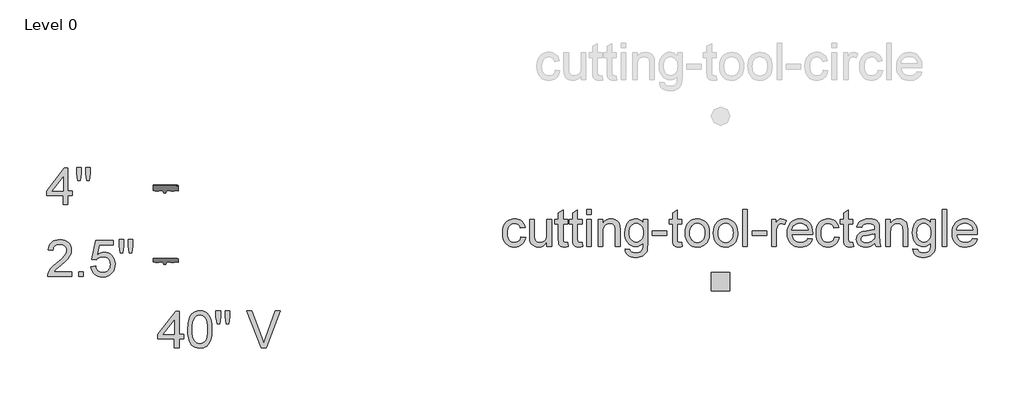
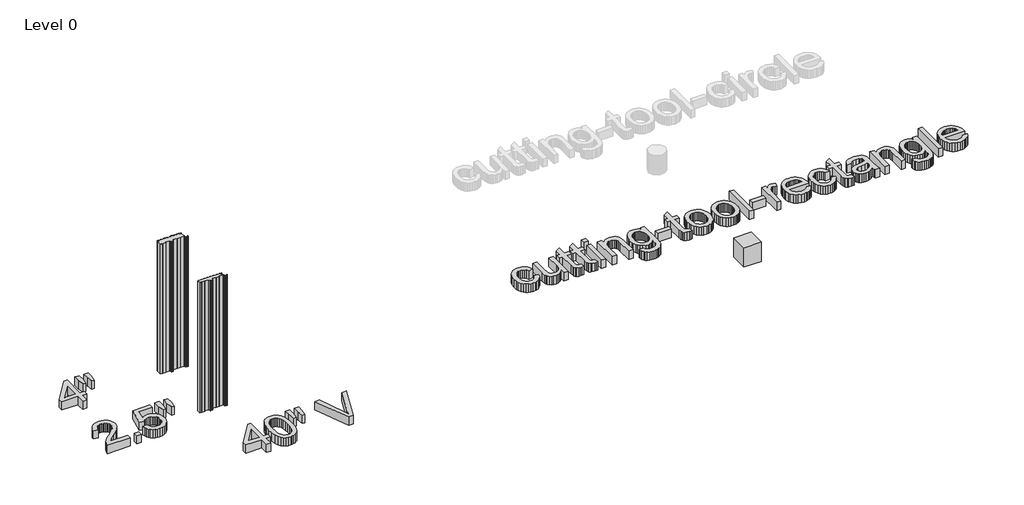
# One storey, part 1 of 2: 5 proxies, 2 plates.
"""IFC4 building model written with IfcOpenShell, lengths in millimetres."""

from ifc_helpers import new_model, si_unit, origin, origin_with_axes, place, context, project, spatial, polyline, outline, extrude, transform, mapped, element, save
from components import kingspan_ks_cutting_tool_rectangle_cutting_tool_rectangle_f435e5aa, vt_2_5_inch_2b169fff, vt_4_inch_4c3a3e69

model = new_model("IFC4")

# Units and contexts
model_context = context("Model", 3, world=origin())
ifc_project = project(units=[si_unit("LENGTHUNIT", "METRE", prefix="MILLI")], contexts=[model_context])

# Site, building, storey
site = spatial("IfcSite", under=ifc_project)
building = spatial("IfcBuilding", under=site)
storey = spatial("IfcBuildingStorey", under=building, Name="Level 0", Elevation=0.0)

# Proxies
placement = place(None, origin())
element("IfcBuildingElementProxy", 1, Name="24\" Arial", ObjectType="24\" Arial", at=placement, inside=storey, context=model_context, shape_type="SweptSolid", body=[
    extrude(outline(polyline([(-8047.2310472, 10661.1522744), (-8047.2310472, 10585.0105009), (-8446.9753582, 10585.0105009), (-8445.3023211, 10611.8162718), (-8438.7960661, 10637.5066846), (-8420.0208729, 10678.5332701), (-8392.5458873, 10718.3329618), (-8352.8019635, 10759.9915835), (-8297.219956, 10806.594959), (-8215.0552492, 10879.5765515), (-8165.7564251, 10933.4483434), (-8151.3776014, 10955.4580748), (-8141.1070131, 10977.1703774), (-8134.9446601, 10998.5852512), (-8132.8905424, 11019.7026962), (-8134.8284769, 11039.5700108), (-8140.6422806, 11057.8293509), (-8150.3319533, 11074.4807165), (-8163.8974951, 11089.5241077), (-8180.5860393, 11101.9835861), (-8199.6447193, 11110.8832136), (-8221.0735351, 11116.2229901), (-8244.8724867, 11118.0029155), (-8269.9448053, 11116.264816), (-8292.3681486, 11111.0505173), (-8312.1425167, 11102.3600194), (-8329.2679095, 11090.1933225), (-8343.1215854, 11074.959391), (-8353.080803, 11057.0671896), (-8359.1455622, 11036.5167182), (-8361.315863, 11013.307977), (-8437.4576365, 11022.8256986), (-8430.9095555, 11062.1327739), (-8418.9984614, 11096.4765059), (-8401.7243542, 11125.8568949), (-8379.0872339, 11150.2739406), (-8351.6076009, 11169.4673931), (-8319.8059557, 11183.177002), (-8283.6822981, 11191.4027673), (-8243.2366282, 11194.1446891), (-8202.428467, 11191.0960438), (-8166.1096218, 11181.9501081), (-8134.2800926, 11166.706882), (-8106.9398794, 11145.3663654), (-8084.9812685, 11119.5086489), (-8069.2965465, 11090.7138229), (-8059.8857133, 11058.9818875), (-8056.7487689, 11024.3128427), (-8060.1320215, 10987.8964036), (-8070.2817794, 10952.1120008), (-8088.2948113, 10915.714151), (-8115.2678858, 10877.4573713), (-8158.2649371, 10831.7834608), (-8224.3498993, 10773.1342187), (-8311.9426817, 10699.892376), (-8346.2957084, 10661.1522744), (-8047.2310472, 10661.1522744)])), origin_with_axes(), (0.0, 0.0, 1.0), 152.4),
    extrude(outline(polyline([(-7933.0183869, 10585.0105009), (-7933.0183869, 10661.1522744), (-7856.8766134, 10661.1522744), (-7856.8766134, 10585.0105009), (-7933.0183869, 10585.0105009)])), origin_with_axes(), (0.0, 0.0, 1.0), 152.4),
    extrude(outline(polyline([(-7733.1462314, 10746.8117696), (-7657.0044579, 10756.3294913), (-7651.3161321, 10731.8520303), (-7643.0253042, 10710.6184022), (-7632.1319743, 10692.628607), (-7618.6361424, 10677.8826446), (-7602.5656924, 10666.3991044), (-7583.9485082, 10658.1965757), (-7562.78459, 10653.2750585), (-7539.0739376, 10651.6345528), (-7510.0746293, 10653.9163893), (-7484.4957523, 10660.7618991), (-7462.3373065, 10672.1710821), (-7443.5992919, 10688.1439383), (-7428.6999678, 10707.8904224), (-7418.0575935, 10730.6204892), (-7411.6721689, 10756.3341387), (-7409.543694, 10785.0313708), (-7411.5373964, 10812.1531598), (-7417.5185038, 10836.2634821), (-7427.487016, 10857.3623378), (-7441.4429331, 10875.4497269), (-7459.4327283, 10889.9586756), (-7481.502875, 10900.3222105), (-7507.653373, 10906.5403314), (-7537.8842224, 10908.6130384), (-7574.8211618, 10905.3041429), (-7604.7313458, 10895.3774566), (-7628.6185966, 10880.1714091), (-7647.4867362, 10861.0244299), (-7723.6285098, 10870.5421516), (-7657.0044579, 11184.6269674), (-7361.9550855, 11184.6269674), (-7361.9550855, 11108.4851939), (-7595.4366957, 11108.4851939), (-7628.0051497, 10940.7353491), (-7601.1343162, 10959.9938641), (-7573.6128573, 10973.7499462), (-7545.4407729, 10982.0035955), (-7516.618063, 10984.7548119), (-7479.5370565, 10981.3436753), (-7445.4768112, 10971.1102656), (-7414.4373273, 10954.0545827), (-7386.4186046, 10930.1766266), (-7363.2238053, 10900.9356574), (-7346.6560915, 10867.7909352), (-7336.7154632, 10830.7424599), (-7333.4019205, 10789.7902317), (-7336.3855032, 10750.3437367), (-7345.3362512, 10713.6484581), (-7360.2541646, 10679.704396), (-7381.1392433, 10648.5115503), (-7412.7782322, 10616.565838), (-7449.6965824, 10593.747472), (-7491.8942938, 10580.0564524), (-7539.3713664, 10575.4927792), (-7578.6644997, 10578.4252413), (-7614.156121, 10587.2226276), (-7645.8462305, 10601.8849382), (-7673.7348281, 10622.4121729), (-7696.938922, 10647.7819203), (-7714.5755206, 10676.9717689), (-7726.6446237, 10709.9817187), (-7733.1462314, 10746.8117696)])), origin_with_axes(), (0.0, 0.0, 1.0), 152.4),
    extrude(outline(polyline([(-7248.1885685, 10975.2370902), (-7266.7778686, 11092.8701817), (-7266.7778686, 11194.1446891), (-7190.6360951, 11194.1446891), (-7190.6360951, 11092.8701817), (-7207.2921081, 10975.2370902), (-7248.1885685, 10975.2370902)])), origin_with_axes(), (0.0, 0.0, 1.0), 152.4),
    extrude(outline(polyline([(-7096.3511646, 10975.2370902), (-7114.4943216, 11092.8701817), (-7114.4943216, 11194.1446891), (-7038.3525481, 11194.1446891), (-7038.3525481, 11092.8701817), (-7056.1982763, 10975.2370902), (-7096.3511646, 10975.2370902)])), origin_with_axes(), (0.0, 0.0, 1.0), 152.4),
])
element("IfcBuildingElementProxy", 2, Name="24\" Arial", ObjectType="24\" Arial", at=placement, inside=storey, context=model_context, shape_type="SweptSolid", body=[
    extrude(outline(polyline([(-8189.9968725, 11778.8105009), (-8189.9968725, 11921.5763263), (-8466.0108015, 11921.5763263), (-8466.0108015, 11997.7180998), (-8170.9614292, 12378.4269674), (-8113.855099, 12378.4269674), (-8113.855099, 11997.7180998), (-8037.7133255, 11997.7180998), (-8037.7133255, 11921.5763263), (-8113.855099, 11921.5763263), (-8113.855099, 11778.8105009), (-8189.9968725, 11778.8105009)]), holes=[polyline([(-8189.9968725, 11997.7180998), (-8189.9968725, 12232.9842828), (-8372.3207287, 11997.7180998), (-8189.9968725, 11997.7180998)])]), origin_with_axes(), (0.0, 0.0, 1.0), 152.4),
    extrude(outline(polyline([(-7952.4999735, 12169.0370902), (-7971.0892737, 12286.6701817), (-7971.0892737, 12387.9446891), (-7894.9475002, 12387.9446891), (-7894.9475002, 12286.6701817), (-7911.6035131, 12169.0370902), (-7952.4999735, 12169.0370902)])), origin_with_axes(), (0.0, 0.0, 1.0), 152.4),
    extrude(outline(polyline([(-7800.6625697, 12169.0370902), (-7818.8057266, 12286.6701817), (-7818.8057266, 12387.9446891), (-7742.6639531, 12387.9446891), (-7742.6639531, 12286.6701817), (-7760.5096813, 12169.0370902), (-7800.6625697, 12169.0370902)])), origin_with_axes(), (0.0, 0.0, 1.0), 152.4),
])
element("IfcBuildingElementProxy", 3, Name="24\" Arial", ObjectType="24\" Arial", at=placement, inside=storey, context=model_context, shape_type="SweptSolid", body=[
    extrude(outline(polyline([(-6353.1934429, 9409.440542), (-6353.1934429, 9552.2063674), (-6629.2073719, 9552.2063674), (-6629.2073719, 9628.3481409), (-6334.1579995, 10009.0570085), (-6277.0516693, 10009.0570085), (-6277.0516693, 9628.3481409), (-6200.9098958, 9628.3481409), (-6200.9098958, 9552.2063674), (-6277.0516693, 9552.2063674), (-6277.0516693, 9409.440542), (-6353.1934429, 9409.440542)]), holes=[polyline([(-6353.1934429, 9628.3481409), (-6353.1934429, 9863.6143239), (-6535.517299, 9628.3481409), (-6353.1934429, 9628.3481409)])]), origin_with_axes(), (0.0, 0.0, 1.0), 152.4),
    extrude(outline(polyline([(-6134.285844, 9709.1000608), (-6128.6904646, 9806.6009403), (-6121.6962405, 9847.9481912), (-6111.9043266, 9884.3599829), (-6099.356549, 9916.1337442), (-6084.0947335, 9943.5669039), (-6066.1188803, 9966.6594621), (-6045.4289892, 9985.4114186), (-6021.9553504, 9999.9203674), (-5995.628254, 10010.2839023), (-5966.4477, 10016.5020232), (-5934.4136885, 10018.5747302), (-5887.4942949, 10013.6671549), (-5845.4824765, 9998.9444292), (-5810.3486991, 9974.9828212), (-5784.0634287, 9942.3585994), (-5764.2100561, 9901.3506033), (-5748.3719724, 9852.2376722), (-5737.9991429, 9789.8705701), (-5734.541533, 9709.1000608), (-5740.0811445, 9612.1568604), (-5747.0056588, 9570.9490293), (-5756.6999788, 9534.5837108), (-5769.1501626, 9502.7960075), (-5784.3422682, 9475.3210218), (-5802.2762955, 9452.1587538), (-5822.9522447, 9433.3092034), (-5846.4537674, 9418.7026608), (-5872.8645156, 9408.2694161), (-5902.1844893, 9402.0094693), (-5934.4136885, 9399.9228203), (-5976.3511497, 9403.5477339), (-6013.5297501, 9414.4224745), (-6045.9494896, 9432.5470421), (-6073.6103682, 9457.9214369), (-6100.1558889, 9503.7905351), (-6119.1169751, 9560.9433384), (-6130.4936268, 9629.379847), (-6134.285844, 9709.1000608)]), holes=[polyline([(-6058.1440705, 9709.2487752), (-6055.9133545, 9643.0569246), (-6049.2212064, 9589.4779142), (-6038.0676263, 9548.511744), (-6022.4526141, 9520.1584139), (-6003.5658852, 9500.8673676), (-5982.5971546, 9487.0880488), (-5959.5464224, 9478.8204576), (-5934.4136885, 9476.0645938), (-5909.2809547, 9478.8297522), (-5886.2302225, 9487.1252274), (-5865.2614919, 9500.9510195), (-5846.3747629, 9520.3071283), (-5830.7597507, 9548.7069316), (-5819.6061706, 9589.6638072), (-5812.9140226, 9643.1777551), (-5810.6833065, 9709.2487752), (-5812.8396654, 9773.6885843), (-5819.3087418, 9826.3241877), (-5830.0905359, 9867.1555856), (-5845.1850477, 9896.1827778), (-5863.7557585, 9916.417231), (-5884.96615, 9930.8704119), (-5908.8162222, 9939.5423205), (-5935.3059749, 9942.4329566), (-5960.3085837, 9939.8862225), (-5982.9689406, 9932.2460201), (-6003.2870457, 9919.5123495), (-6021.2628989, 9901.6852107), (-6037.3984115, 9870.0834004), (-6048.9237776, 9827.4767244), (-6055.8389973, 9773.8651827), (-6058.1440705, 9709.2487752)])]), origin_with_axes(), (0.0, 0.0, 1.0), 152.4),
    extrude(outline(polyline([(-5649.328181, 9799.6671313), (-5667.9174812, 9917.3002228), (-5667.9174812, 10018.5747302), (-5591.7757077, 10018.5747302), (-5591.7757077, 9917.3002228), (-5608.4317206, 9799.6671313), (-5649.328181, 9799.6671313)])), origin_with_axes(), (0.0, 0.0, 1.0), 152.4),
    extrude(outline(polyline([(-5497.4907772, 9799.6671313), (-5515.6339342, 9917.3002228), (-5515.6339342, 10018.5747302), (-5439.4921607, 10018.5747302), (-5439.4921607, 9917.3002228), (-5457.3378888, 9799.6671313), (-5497.4907772, 9799.6671313)])), origin_with_axes(), (0.0, 0.0, 1.0), 152.4),
    extrude(outline(polyline([(-4916.9097541, 9409.440542), (-5159.3142284, 10018.5747302), (-5077.8187364, 10018.5747302), (-4915.5713245, 9579.7185316), (-4882.7054418, 9480.8234547), (-4850.2857023, 9579.7185316), (-4687.5921472, 10018.5747302), (-4606.0966552, 10018.5747302), (-4838.2398358, 9409.440542), (-4916.9097541, 9409.440542)])), origin_with_axes(), (0.0, 0.0, 1.0), 152.4),
])
element("IfcBuildingElementProxy", 4, Name="24\" Arial", ObjectType="24\" Arial", at=placement, inside=storey, context=model_context, shape_type="SweptSolid", body=[
    extrude(outline(polyline([(-631.5569332, 11242.2118984), (-555.4151597, 11232.6941767), (-563.6966929, 11196.7657068), (-576.6441405, 11164.9733562), (-594.2575024, 11137.3171249), (-616.5367787, 11113.7970128), (-642.5432096, 11095.026467), (-671.3380356, 11081.6189342), (-702.9212566, 11073.5744146), (-737.2928726, 11070.892908), (-779.9971424, 11074.6340047), (-818.2864535, 11085.8572946), (-852.1608057, 11104.5627779), (-881.6201991, 11130.7504546), (-905.4656239, 11163.9277081), (-922.4980702, 11203.601922), (-932.717538, 11249.7730963), (-936.1240273, 11302.441231), (-930.3055763, 11370.1992301), (-923.0325126, 11400.6903297), (-912.8502234, 11428.9228294), (-899.6889989, 11454.3297554), (-883.4791292, 11476.3441341), (-864.2206142, 11494.9659656), (-841.913454, 11510.1952497), (-817.5661181, 11522.036634), (-792.187076, 11530.4947655), (-765.7763278, 11535.5696445), (-738.3338734, 11537.2612708), (-704.5524677, 11534.9376083), (-673.9963055, 11527.9666207), (-646.6653869, 11516.3483081), (-622.5597119, 11500.0826704), (-602.0882451, 11479.5414938), (-585.6599511, 11455.096564), (-573.2748298, 11426.7478813), (-564.9328814, 11394.4954455), (-641.0746549, 11384.9777238), (-654.8865049, 11418.1968032), (-676.3943252, 11442.0096967), (-704.4084006, 11456.3420471), (-737.7390158, 11461.1194973), (-763.6106743, 11458.7679508), (-786.9448934, 11451.7133114), (-807.7416729, 11439.955579), (-826.001013, 11423.4947537), (-840.8678058, 11401.9497548), (-851.4869436, 11374.9395017), (-857.8584262, 11342.4639943), (-859.9822537, 11304.5232326), (-857.9048994, 11266.01085), (-851.6728366, 11233.1589092), (-841.2860651, 11205.9674104), (-826.744585, 11184.4363535), (-808.8477363, 11168.073122), (-788.3948588, 11156.3850995), (-765.3859525, 11149.372286), (-739.8210174, 11147.0346815), (-700.3931117, 11152.8717218), (-683.3420762, 11160.1680221), (-668.0663187, 11170.3828425), (-654.9933934, 11183.6277189), (-644.550854, 11200.014187), (-636.7387006, 11219.5422469), (-631.5569332, 11242.2118984)])), origin_with_axes(), (0.0, 0.0, 1.0), 152.4),
    extrude(outline(polyline([(-203.2594572, 11080.4106297), (-203.2594572, 11157.2959752), (-230.8088, 11119.4946333), (-262.8939321, 11092.4936748), (-299.5148535, 11076.2930997), (-340.6715641, 11070.892908), (-377.7572179, 11074.6851252), (-412.2775483, 11086.0617769), (-441.239678, 11103.1639331), (-461.6507296, 11124.1326637), (-475.3882224, 11149.6000049), (-484.3296758, 11180.197993), (-488.7911078, 11250.9860481), (-488.7911078, 11527.7435491), (-412.6493343, 11527.7435491), (-412.6493343, 11286.8262188), (-411.4967977, 11238.6427528), (-408.0391879, 11209.1973013), (-396.9413757, 11183.3024062), (-377.9245216, 11163.6163373), (-352.2526981, 11151.1800955), (-321.1899775, 11147.0346815), (-288.3426841, 11151.273042), (-257.6145709, 11163.9881233), (-232.2773547, 11184.0087996), (-215.6027525, 11210.1639449), (-206.345281, 11245.9855264), (-203.2594572, 11295.0055109), (-203.2594572, 11527.7435491), (-127.1176836, 11527.7435491), (-127.1176836, 11080.4106297), (-203.2594572, 11080.4106297)])), origin_with_axes(), (0.0, 0.0, 1.0), 152.4),
    extrude(outline(polyline([(139.3785237, 11143.9116791), (148.8962454, 11078.1799137), (118.7444005, 11072.7146594), (91.9386296, 11070.892908), (55.3920655, 11074.053089), (28.1401514, 11083.5336321), (8.8816364, 11098.1448221), (-3.6847305, 11116.6969436), (-10.5999501, 11148.5590041), (-12.9050234, 11203.1000108), (-12.9050234, 11451.6017756), (-70.0113535, 11451.6017756), (-70.0113535, 11527.7435491), (-12.9050234, 11527.7435491), (-12.9050234, 11636.4537765), (63.2367502, 11681.2168114), (63.2367502, 11527.7435491), (139.3785237, 11527.7435491), (139.3785237, 11451.6017756), (63.2367502, 11451.6017756), (63.2367502, 11205.3307269), (67.252039, 11166.0701249), (80.2645491, 11152.1653284), (91.2508255, 11148.3173432), (106.2152122, 11147.0346815), (139.3785237, 11143.9116791)])), origin_with_axes(), (0.0, 0.0, 1.0), 152.4),
    extrude(outline(polyline([(377.3215659, 11143.9116791), (386.8392876, 11078.1799137), (356.6874427, 11072.7146594), (329.8816719, 11070.892908), (293.3351077, 11074.053089), (266.0831937, 11083.5336321), (246.8246787, 11098.1448221), (234.2583118, 11116.6969436), (227.3430921, 11148.5590041), (225.0380189, 11203.1000108), (225.0380189, 11451.6017756), (167.9316887, 11451.6017756), (167.9316887, 11527.7435491), (225.0380189, 11527.7435491), (225.0380189, 11636.4537765), (301.1797924, 11681.2168114), (301.1797924, 11527.7435491), (377.3215659, 11527.7435491), (377.3215659, 11451.6017756), (301.1797924, 11451.6017756), (301.1797924, 11205.3307269), (305.1950812, 11166.0701249), (318.2075914, 11152.1653284), (329.1938678, 11148.3173432), (344.1582544, 11147.0346815), (377.3215659, 11143.9116791)])), origin_with_axes(), (0.0, 0.0, 1.0), 152.4),
    extrude(outline(polyline([(453.4633394, 11613.4030443), (453.4633394, 11689.5448178), (529.6051129, 11689.5448178), (529.6051129, 11613.4030443), (453.4633394, 11613.4030443)])), origin_with_axes(), (0.0, 0.0, 1.0), 152.4),
    extrude(outline(polyline([(453.4633394, 11080.4106297), (453.4633394, 11527.7435491), (529.6051129, 11527.7435491), (529.6051129, 11080.4106297), (453.4633394, 11080.4106297)])), origin_with_axes(), (0.0, 0.0, 1.0), 152.4),
    extrude(outline(polyline([(643.8177732, 11080.4106297), (643.8177732, 11527.7435491), (719.9595467, 11527.7435491), (719.9595467, 11465.2835005), (746.4121209, 11496.773775), (778.1812349, 11519.2668282), (815.2668887, 11532.7626602), (857.6690824, 11537.2612708), (895.2008795, 11533.6363573), (929.5724955, 11522.7616167), (958.2371964, 11505.9940679), (978.648248, 11484.6907299), (992.4972766, 11458.9073706), (1001.4759086, 11428.6997578), (1005.4911974, 11355.0861291), (1005.4911974, 11080.4106297), (929.3494239, 11080.4106297), (929.3494239, 11344.8248354), (927.1558865, 11384.1969732), (920.5752742, 11412.1924592), (908.4364612, 11432.2503141), (889.5683215, 11447.8095584), (865.383642, 11457.7920125), (837.2952094, 11461.1194973), (814.1747673, 11459.2512726), (792.6994783, 11453.6465986), (772.8693424, 11444.3054753), (754.6843595, 11431.2279026), (739.4922539, 11412.9267366), (728.6407499, 11387.9148332), (722.1298475, 11356.1921924), (719.9595467, 11317.7588143), (719.9595467, 11080.4106297), (643.8177732, 11080.4106297)])), origin_with_axes(), (0.0, 0.0, 1.0), 152.4),
    extrude(outline(polyline([(1091.1506926, 11042.3397429), (1167.2924661, 11032.8220212), (1175.6948298, 11009.027717), (1191.9790568, 10992.6691329), (1223.9898317, 10979.9540515), (1265.8901143, 10975.7156911), (1310.5787919, 10980.5117306), (1328.6290024, 10986.5067799), (1343.8164606, 10994.8998489), (1366.8671928, 11017.9505811), (1380.995061, 11048.7344622), (1385.1218856, 11081.4888091), (1386.200065, 11137.5169598), (1360.8628489, 11112.5329404), (1332.5885233, 11094.6872122), (1301.3770883, 11083.9797753), (1267.2285439, 11080.4106297), (1225.481623, 11084.5653383), (1188.7259293, 11097.0294641), (1156.9614626, 11117.803007), (1130.188223, 11146.8859671), (1108.9453002, 11181.7780835), (1093.771784, 11219.9790954), (1084.6676742, 11261.4890027), (1081.6329709, 11306.3078054), (1087.0796359, 11367.7826211), (1103.4196307, 11424.3126829), (1115.5305598, 11449.8032608), (1130.0766872, 11472.2173095), (1147.0580129, 11491.554829), (1166.4745369, 11507.8158193), (1188.0148885, 11520.6982043), (1211.3676969, 11529.8999079), (1236.532962, 11535.4209301), (1263.5106839, 11537.2612708), (1299.1184883, 11533.0972676), (1331.4359867, 11520.6052578), (1360.4631789, 11499.7852416), (1386.200065, 11470.637219), (1386.200065, 11527.7435491), (1462.3418385, 11527.7435491), (1462.3418385, 11141.5322487), (1457.1368345, 11052.3593757), (1450.6305794, 11019.1914169), (1441.5218223, 10993.6357765), (1429.5921389, 10973.0248899), (1414.623105, 10954.6911926), (1396.6147204, 10938.6346846), (1375.5669853, 10924.8553658), (1351.6936766, 10913.7947322), (1325.2085711, 10905.8942797), (1296.111669, 10901.1540081), (1264.4029703, 10899.5739176), (1227.0988921, 10901.7999863), (1193.5591473, 10908.4781924), (1163.7837357, 10919.6085359), (1137.7726575, 10935.1910167), (1116.7621009, 10955.2442243), (1101.9882546, 10979.7867478), (1093.4511185, 11008.8185874), (1091.1506926, 11042.3397429)]), holes=[polyline([(1157.7747445, 11311.5128095), (1159.8056255, 11273.8648293), (1165.8982686, 11241.6728087), (1176.0526739, 11214.9367477), (1190.2688412, 11193.6566464), (1207.552243, 11177.42354), (1226.9083518, 11165.828464), (1248.3371676, 11158.8714184), (1271.8386903, 11156.5524032), (1295.1078468, 11158.8574764), (1316.4344215, 11165.7726961), (1335.8184142, 11177.2980622), (1353.2598251, 11193.4335748), (1367.6711801, 11214.5045465), (1377.965005, 11240.8362902), (1384.1413, 11272.4288059), (1386.200065, 11309.2820934), (1384.0808848, 11344.5971165), (1377.7233441, 11375.2926984), (1367.127443, 11401.3688392), (1352.2931815, 11422.8255389), (1334.4753373, 11439.5791457), (1314.9286881, 11451.5460077), (1293.6532341, 11458.7261249), (1270.6489751, 11461.1194973), (1248.0304441, 11458.7633035), (1227.168602, 11451.6947221), (1208.0634488, 11439.9137531), (1190.7149844, 11423.4203965), (1176.3036294, 11402.2890095), (1166.0098044, 11376.5939494), (1159.8335095, 11346.335216), (1157.7747445, 11311.5128095)])]), origin_with_axes(), (0.0, 0.0, 1.0), 152.4),
    extrude(outline(polyline([(1538.483612, 11261.2473418), (1538.483612, 11337.3891153), (1776.4266543, 11337.3891153), (1776.4266543, 11261.2473418), (1538.483612, 11261.2473418)])), origin_with_axes(), (0.0, 0.0, 1.0), 152.4),
    extrude(outline(polyline([(2023.8874182, 11143.9116791), (2033.4051399, 11078.1799137), (2003.253295, 11072.7146594), (1976.4475242, 11070.892908), (1939.90096, 11074.053089), (1912.649046, 11083.5336321), (1893.390531, 11098.1448221), (1880.8241641, 11116.6969436), (1873.9089444, 11148.5590041), (1871.6038712, 11203.1000108), (1871.6038712, 11451.6017756), (1814.497541, 11451.6017756), (1814.497541, 11527.7435491), (1871.6038712, 11527.7435491), (1871.6038712, 11636.4537765), (1947.7456447, 11681.2168114), (1947.7456447, 11527.7435491), (2023.8874182, 11527.7435491), (2023.8874182, 11451.6017756), (1947.7456447, 11451.6017756), (1947.7456447, 11205.3307269), (1951.7609335, 11166.0701249), (1964.7734437, 11152.1653284), (1975.7597201, 11148.3173432), (1990.7241067, 11147.0346815), (2023.8874182, 11143.9116791)])), origin_with_axes(), (0.0, 0.0, 1.0), 152.4),
    extrude(outline(polyline([(2080.9937484, 11304.0770894), (2085.1112783, 11362.0106434), (2097.4638683, 11411.932209), (2118.0515183, 11453.8417863), (2146.8742282, 11487.7393751), (2175.8921257, 11509.4052045), (2207.9214899, 11524.8807969), (2242.9623208, 11534.1661523), (2281.0146182, 11537.2612708), (2323.0217893, 11533.4922902), (2361.0043769, 11522.1853484), (2394.962381, 11503.3404453), (2424.8958016, 11476.957581), (2449.3267893, 11443.9290419), (2466.7774949, 11405.1471145), (2477.2479182, 11360.6117986), (2480.7380593, 11310.3230943), (2479.1951474, 11269.5660536), (2474.5664117, 11233.4005701), (2466.8518521, 11201.8266438), (2456.0514687, 11174.8442746), (2442.3000339, 11151.5379395), (2425.7323201, 11130.9921155), (2406.3483273, 11113.2068025), (2384.1480556, 11098.1820007), (2359.9959074, 11086.2430226), (2334.756285, 11077.7151812), (2308.4291887, 11072.5984763), (2281.0146182, 11070.892908), (2238.3940003, 11074.6479466), (2200.058216, 11085.9130625), (2166.0072654, 11104.6882557), (2136.2411485, 11130.9735262), (2112.0704109, 11164.3227307), (2094.8055984, 11204.2897261), (2084.4467109, 11250.8745123), (2080.9937484, 11304.0770894)]), holes=[polyline([(2157.1355219, 11304.2258038), (2159.3383539, 11267.2935117), (2165.9468502, 11235.3152681), (2176.9610105, 11208.2910729), (2192.380835, 11186.2209263), (2211.1374389, 11169.0769442), (2232.1619374, 11156.8312427), (2255.4543305, 11149.4838218), (2281.0146182, 11147.0346815), (2306.4447809, 11149.4977638), (2329.6442275, 11156.8870106), (2350.6129581, 11169.202422), (2369.3509727, 11186.4439979), (2384.7707972, 11208.7325688), (2395.7849575, 11236.1889652), (2402.3934537, 11268.813187), (2404.5962858, 11306.6052342), (2402.3795118, 11342.3664004), (2395.7291896, 11373.5081256), (2384.6453194, 11400.0304096), (2369.1279011, 11421.9332525), (2350.3201766, 11439.0772346), (2329.365388, 11451.3229361), (2306.2635352, 11458.670357), (2281.0146182, 11461.1194973), (2255.4543305, 11458.6796516), (2232.1619374, 11451.3601147), (2211.1374389, 11439.1608864), (2192.380835, 11422.0819669), (2176.9610105, 11400.0768828), (2165.9468502, 11373.099161), (2159.3383539, 11341.1488013), (2157.1355219, 11304.2258038)])]), origin_with_axes(), (0.0, 0.0, 1.0), 152.4),
    extrude(outline(polyline([(2547.3621111, 11304.0770894), (2551.4796411, 11362.0106434), (2563.8322311, 11411.932209), (2584.419881, 11453.8417863), (2613.242591, 11487.7393751), (2642.2604885, 11509.4052045), (2674.2898527, 11524.8807969), (2709.3306836, 11534.1661523), (2747.382981, 11537.2612708), (2789.3901521, 11533.4922902), (2827.3727397, 11522.1853484), (2861.3307438, 11503.3404453), (2891.2641644, 11476.957581), (2915.6951521, 11443.9290419), (2933.1458577, 11405.1471145), (2943.616281, 11360.6117986), (2947.1064221, 11310.3230943), (2945.5635102, 11269.5660536), (2940.9347745, 11233.4005701), (2933.2202149, 11201.8266438), (2922.4198315, 11174.8442746), (2908.6683967, 11151.5379395), (2892.1006829, 11130.9921155), (2872.7166901, 11113.2068025), (2850.5164184, 11098.1820007), (2826.3642701, 11086.2430226), (2801.1246478, 11077.7151812), (2774.7975515, 11072.5984763), (2747.382981, 11070.892908), (2704.7623631, 11074.6479466), (2666.4265788, 11085.9130625), (2632.3756282, 11104.6882557), (2602.6095113, 11130.9735262), (2578.4387737, 11164.3227307), (2561.1739612, 11204.2897261), (2550.8150737, 11250.8745123), (2547.3621111, 11304.0770894)]), holes=[polyline([(2623.5038847, 11304.2258038), (2625.7067167, 11267.2935117), (2632.3152129, 11235.3152681), (2643.3293733, 11208.2910729), (2658.7491978, 11186.2209263), (2677.5058017, 11169.0769442), (2698.5303002, 11156.8312427), (2721.8226933, 11149.4838218), (2747.382981, 11147.0346815), (2772.8131437, 11149.4977638), (2796.0125903, 11156.8870106), (2816.9813209, 11169.202422), (2835.7193355, 11186.4439979), (2851.13916, 11208.7325688), (2862.1533203, 11236.1889652), (2868.7618165, 11268.813187), (2870.9646486, 11306.6052342), (2868.7478745, 11342.3664004), (2862.0975524, 11373.5081256), (2851.0136822, 11400.0304096), (2835.4962639, 11421.9332525), (2816.6885394, 11439.0772346), (2795.7337508, 11451.3229361), (2772.631898, 11458.670357), (2747.382981, 11461.1194973), (2721.8226933, 11458.6796516), (2698.5303002, 11451.3601147), (2677.5058017, 11439.1608864), (2658.7491978, 11422.0819669), (2643.3293733, 11400.0768828), (2632.3152129, 11373.099161), (2625.7067167, 11341.1488013), (2623.5038847, 11304.2258038)])]), origin_with_axes(), (0.0, 0.0, 1.0), 152.4),
    extrude(outline(polyline([(3032.7659173, 11080.4106297), (3032.7659173, 11689.5448178), (3108.9076908, 11689.5448178), (3108.9076908, 11080.4106297), (3032.7659173, 11080.4106297)])), origin_with_axes(), (0.0, 0.0, 1.0), 152.4),
    extrude(outline(polyline([(3185.0494644, 11261.2473418), (3185.0494644, 11337.3891153), (3422.9925066, 11337.3891153), (3422.9925066, 11261.2473418), (3185.0494644, 11261.2473418)])), origin_with_axes(), (0.0, 0.0, 1.0), 152.4),
    extrude(outline(polyline([(3508.6520018, 11080.4106297), (3508.6520018, 11527.7435491), (3575.2760536, 11527.7435491), (3575.2760536, 11461.5656405), (3599.8882871, 11499.933956), (3622.5672333, 11522.5385451), (3645.3205367, 11533.5805894), (3670.1558417, 11537.2612708), (3708.0780141, 11531.3870519), (3746.595044, 11513.7643954), (3721.1648814, 11445.5044851), (3694.3962891, 11457.2157442), (3667.6276969, 11461.1194973), (3644.8929828, 11457.3644586), (3624.5748777, 11446.0993427), (3608.1605256, 11428.1792574), (3597.1370706, 11404.4593103), (3587.8795991, 11361.9269915), (3584.7937753, 11315.5280983), (3584.7937753, 11080.4106297), (3508.6520018, 11080.4106297)])), origin_with_axes(), (0.0, 0.0, 1.0), 152.4),
    extrude(outline(polyline([(4107.3761818, 11213.6587333), (4182.0308113, 11204.1410117), (4170.5844498, 11174.2401223), (4155.132094, 11147.8897893), (4135.673744, 11125.0900127), (4112.2093999, 11105.8407923), (4084.9807225, 11090.5510929), (4054.2293726, 11079.6298791), (4019.9553504, 11073.0771508), (3982.1586559, 11070.892908), (3934.9139495, 11074.6618886), (3892.8184792, 11085.9688304), (3855.8722451, 11104.8137335), (3824.0752472, 11131.1965978), (3798.5056648, 11164.3831459), (3780.2416774, 11203.6391006), (3769.2832849, 11248.9644617), (3765.6304874, 11300.3592294), (3769.3204635, 11353.4967439), (3780.3903918, 11400.3324857), (3798.8402722, 11440.8664547), (3824.6701048, 11475.098651), (3856.3834509, 11502.2947972), (3892.4838718, 11521.7206158), (3932.9713676, 11533.3761071), (3977.8459382, 11537.2612708), (4021.2751908, 11533.3854017), (4060.5497347, 11521.7577945), (4095.6695701, 11502.378449), (4126.6346968, 11475.2473654), (4151.9114977, 11441.0895263), (4169.9663555, 11400.6299145), (4180.7992702, 11353.8685299), (4184.4102418, 11300.8053726), (4183.9640986, 11280.2827852), (3841.7722609, 11280.2827852), (3846.1825724, 11249.898574), (3854.9520748, 11223.2879908), (3868.080768, 11200.4510356), (3885.5686521, 11181.3877082), (3906.4490836, 11166.3582591), (3929.7554187, 11155.6229382), (3955.4876574, 11149.1817457), (3983.6457999, 11147.0346815), (4024.1704743, 11151.0127918), (4058.3004294, 11162.9471225), (4086.0356652, 11183.5812457), (4107.3761818, 11213.6587333)]), holes=[polyline([(3841.7722609, 11356.4245587), (4108.2684682, 11356.4245587), (4097.9699959, 11396.6518043), (4089.1121944, 11412.4712987), (4077.782016, 11425.4280409), (4057.0177677, 11441.0430531), (4033.3907671, 11452.1966332), (4006.9010144, 11458.8887813), (3977.5485094, 11461.1194973), (3950.7752698, 11459.3395718), (3926.2234516, 11453.9997953), (3903.8930548, 11445.1001679), (3883.7840793, 11432.6406894), (3866.9096421, 11417.1976283), (3854.28286, 11399.3472528), (3845.9037329, 11379.0895629), (3841.7722609, 11356.4245587)])]), origin_with_axes(), (0.0, 0.0, 1.0), 152.4),
    extrude(outline(polyline([(4546.083666, 11242.2118984), (4622.2254395, 11232.6941767), (4613.9439063, 11196.7657068), (4600.9964587, 11164.9733562), (4583.3830968, 11137.3171249), (4561.1038205, 11113.7970128), (4535.0973896, 11095.026467), (4506.3025636, 11081.6189342), (4474.7193426, 11073.5744146), (4440.3477266, 11070.892908), (4397.6434567, 11074.6340047), (4359.3541457, 11085.8572946), (4325.4797935, 11104.5627779), (4296.0204, 11130.7504546), (4272.1749752, 11163.9277081), (4255.1425289, 11203.601922), (4244.9230612, 11249.7730963), (4241.5165719, 11302.441231), (4247.3350229, 11370.1992301), (4254.6080865, 11400.6903297), (4264.7903757, 11428.9228294), (4277.9516002, 11454.3297554), (4294.16147, 11476.3441341), (4313.419985, 11494.9659656), (4335.7271452, 11510.1952497), (4360.0744811, 11522.036634), (4385.4535232, 11530.4947655), (4411.8642714, 11535.5696445), (4439.3067258, 11537.2612708), (4473.0881315, 11534.9376083), (4503.6442937, 11527.9666207), (4530.9752123, 11516.3483081), (4555.0808873, 11500.0826704), (4575.5523541, 11479.5414938), (4591.9806481, 11455.096564), (4604.3657693, 11426.7478813), (4612.7077178, 11394.4954455), (4536.5659443, 11384.9777238), (4522.7540943, 11418.1968032), (4501.2462739, 11442.0096967), (4473.2321986, 11456.3420471), (4439.9015834, 11461.1194973), (4414.0299249, 11458.7679508), (4390.6957058, 11451.7133114), (4369.8989262, 11439.955579), (4351.6395861, 11423.4947537), (4336.7727933, 11401.9497548), (4326.1536556, 11374.9395017), (4319.782173, 11342.4639943), (4317.6583454, 11304.5232326), (4319.7356997, 11266.01085), (4325.9677626, 11233.1589092), (4336.3545341, 11205.9674104), (4350.8960141, 11184.4363535), (4368.7928629, 11168.073122), (4389.2457404, 11156.3850995), (4412.2546467, 11149.372286), (4437.8195818, 11147.0346815), (4477.2474874, 11152.8717218), (4494.298523, 11160.1680221), (4509.5742804, 11170.3828425), (4522.6472058, 11183.6277189), (4533.0897451, 11200.014187), (4540.9018985, 11219.5422469), (4546.083666, 11242.2118984)])), origin_with_axes(), (0.0, 0.0, 1.0), 152.4),
    extrude(outline(polyline([(4850.65076, 11143.9116791), (4860.1684817, 11078.1799137), (4830.0166368, 11072.7146594), (4803.210866, 11070.892908), (4766.6643018, 11074.053089), (4739.4123878, 11083.5336321), (4720.1538728, 11098.1448221), (4707.5875059, 11116.6969436), (4700.6722862, 11148.5590041), (4698.367213, 11203.1000108), (4698.367213, 11451.6017756), (4641.2608829, 11451.6017756), (4641.2608829, 11527.7435491), (4698.367213, 11527.7435491), (4698.367213, 11636.4537765), (4774.5089865, 11681.2168114), (4774.5089865, 11527.7435491), (4850.65076, 11527.7435491), (4850.65076, 11451.6017756), (4774.5089865, 11451.6017756), (4774.5089865, 11205.3307269), (4778.5242754, 11166.0701249), (4791.5367855, 11152.1653284), (4802.5230619, 11148.3173432), (4817.4874485, 11147.0346815), (4850.65076, 11143.9116791)])), origin_with_axes(), (0.0, 0.0, 1.0), 152.4),
    extrude(outline(polyline([(5212.3241842, 11137.5169598), (5175.9449238, 11106.3241141), (5138.4874839, 11085.9130625), (5099.0967569, 11074.6479466), (5056.9176348, 11070.892908), (5023.0153986, 11073.151508), (4993.2864603, 11079.9273079), (4967.7308199, 11091.2203077), (4946.3484773, 11107.0305075), (4929.4647455, 11126.3540851), (4917.404937, 11148.1872181), (4910.1690519, 11172.5299067), (4907.7570902, 11199.3821508), (4911.400593, 11230.9467825), (4922.3311015, 11259.6114834), (4939.1915968, 11284.1493596), (4960.6250599, 11303.3335174), (4985.8135616, 11317.8331715), (5013.9391728, 11328.3175368), (5079.8196526, 11339.7685457), (5157.6716417, 11351.8144122), (5211.878041, 11365.9422804), (5212.3241842, 11382.8957221), (5207.0820016, 11416.8769629), (5200.5292733, 11429.4619191), (5191.3554536, 11439.1097659), (5175.4987806, 11448.7390234), (5156.1844977, 11455.6170644), (5107.1831025, 11461.1194973), (5061.82521, 11457.4574051), (5030.1490425, 11446.4711287), (5008.5482757, 11426.1530236), (4993.4165854, 11394.4954455), (4917.2748119, 11404.0131671), (4930.4918043, 11445.6531995), (4950.2150518, 11478.3703678), (4978.284895, 11503.3915659), (5016.5416748, 11521.9436875), (5063.3309433, 11533.431875), (5116.9982529, 11537.2612708), (5168.4720251, 11533.8780182), (5209.275539, 11523.7282603), (5240.0408308, 11508.4664448), (5261.3999367, 11489.7470195), (5275.5649834, 11466.6033408), (5284.7480977, 11438.0687651), (5288.4659578, 11371.4447132), (5288.4659578, 11276.7136395), (5292.3325322, 11144.4321795), (5298.0580367, 11111.7336005), (5307.5014011, 11080.4106297), (5231.3596276, 11080.4106297), (5219.1650467, 11106.8817931), (5212.3241842, 11137.5169598)]), holes=[polyline([(5212.3241842, 11289.8005069), (5161.1664302, 11277.1226041), (5089.4860887, 11266.4523458), (5023.9773949, 11254.1090505), (5006.9310066, 11245.6695082), (4994.3088718, 11234.0326063), (4986.5013657, 11220.0906312), (4983.8988637, 11204.7358693), (4989.5686002, 11182.0941017), (5006.5778099, 11163.5419801), (5034.5547067, 11151.1615062), (5073.1275045, 11147.0346815), (5114.0239649, 11151.5890601), (5150.1615645, 11165.2521957), (5179.4583015, 11185.3844078), (5199.8321745, 11209.3460157), (5208.8665744, 11234.0326063), (5211.878041, 11268.2369187), (5212.3241842, 11289.8005069)])]), origin_with_axes(), (0.0, 0.0, 1.0), 152.4),
    extrude(outline(polyline([(5393.1608963, 11080.4106297), (5393.1608963, 11527.7435491), (5469.3026699, 11527.7435491), (5469.3026699, 11465.2835005), (5495.755244, 11496.773775), (5527.524358, 11519.2668282), (5564.6100119, 11532.7626602), (5607.0122056, 11537.2612708), (5644.5440026, 11533.6363573), (5678.9156186, 11522.7616167), (5707.5803195, 11505.9940679), (5727.9913711, 11484.6907299), (5741.8403997, 11458.9073706), (5750.8190317, 11428.6997578), (5754.8343206, 11355.0861291), (5754.8343206, 11080.4106297), (5678.692547, 11080.4106297), (5678.692547, 11344.8248354), (5676.4990096, 11384.1969732), (5669.9183974, 11412.1924592), (5657.7795843, 11432.2503141), (5638.9114447, 11447.8095584), (5614.7267651, 11457.7920125), (5586.6383326, 11461.1194973), (5563.5178905, 11459.2512726), (5542.0426014, 11453.6465986), (5522.2124655, 11444.3054753), (5504.0274826, 11431.2279026), (5488.835377, 11412.9267366), (5477.983873, 11387.9148332), (5471.4729707, 11356.1921924), (5469.3026699, 11317.7588143), (5469.3026699, 11080.4106297), (5393.1608963, 11080.4106297)])), origin_with_axes(), (0.0, 0.0, 1.0), 152.4),
    extrude(outline(polyline([(5840.4938158, 11042.3397429), (5916.6355893, 11032.8220212), (5925.037953, 11009.027717), (5941.3221799, 10992.6691329), (5973.3329548, 10979.9540515), (6015.2332374, 10975.7156911), (6059.921915, 10980.5117306), (6077.9721255, 10986.5067799), (6093.1595837, 10994.8998489), (6116.210316, 11017.9505811), (6130.3381841, 11048.7344622), (6134.4650087, 11081.4888091), (6135.5431881, 11137.5169598), (6110.205972, 11112.5329404), (6081.9316464, 11094.6872122), (6050.7202114, 11083.9797753), (6016.571667, 11080.4106297), (5974.8247462, 11084.5653383), (5938.0690524, 11097.0294641), (5906.3045857, 11117.803007), (5879.5313461, 11146.8859671), (5858.2884234, 11181.7780835), (5843.1149071, 11219.9790954), (5834.0107973, 11261.4890027), (5830.9760941, 11306.3078054), (5836.422759, 11367.7826211), (5852.7627539, 11424.3126829), (5864.8736829, 11449.8032608), (5879.4198103, 11472.2173095), (5896.401136, 11491.554829), (5915.8176601, 11507.8158193), (5937.3580116, 11520.6982043), (5960.71082, 11529.8999079), (5985.8760851, 11535.4209301), (6012.853807, 11537.2612708), (6048.4616115, 11533.0972676), (6080.7791098, 11520.6052578), (6109.806302, 11499.7852416), (6135.5431881, 11470.637219), (6135.5431881, 11527.7435491), (6211.6849617, 11527.7435491), (6211.6849617, 11141.5322487), (6206.4799576, 11052.3593757), (6199.9737025, 11019.1914169), (6190.8649455, 10993.6357765), (6178.9352621, 10973.0248899), (6163.9662281, 10954.6911926), (6145.9578436, 10938.6346846), (6124.9101084, 10924.8553658), (6101.0367997, 10913.7947322), (6074.5516943, 10905.8942797), (6045.4547922, 10901.1540081), (6013.7460934, 10899.5739176), (5976.4420153, 10901.7999863), (5942.9022704, 10908.4781924), (5913.1268589, 10919.6085359), (5887.1157806, 10935.1910167), (5866.1052241, 10955.2442243), (5851.3313778, 10979.7867478), (5842.7942417, 11008.8185874), (5840.4938158, 11042.3397429)]), holes=[polyline([(5907.1178676, 11311.5128095), (5909.1487486, 11273.8648293), (5915.2413918, 11241.6728087), (5925.395797, 11214.9367477), (5939.6119643, 11193.6566464), (5956.8953661, 11177.42354), (5976.2514749, 11165.828464), (5997.6802907, 11158.8714184), (6021.1818135, 11156.5524032), (6044.45097, 11158.8574764), (6065.7775446, 11165.7726961), (6085.1615373, 11177.2980622), (6102.6029482, 11193.4335748), (6117.0143032, 11214.5045465), (6127.3081282, 11240.8362902), (6133.4844231, 11272.4288059), (6135.5431881, 11309.2820934), (6133.4240079, 11344.5971165), (6127.0664673, 11375.2926984), (6116.4705662, 11401.3688392), (6101.6363046, 11422.8255389), (6083.8184604, 11439.5791457), (6064.2718113, 11451.5460077), (6042.9963572, 11458.7261249), (6019.9920983, 11461.1194973), (5997.3735673, 11458.7633035), (5976.5117251, 11451.6947221), (5957.4065719, 11439.9137531), (5940.0581075, 11423.4203965), (5925.6467525, 11402.2890095), (5915.3529276, 11376.5939494), (5909.1766326, 11346.335216), (5907.1178676, 11311.5128095)])]), origin_with_axes(), (0.0, 0.0, 1.0), 152.4),
    extrude(outline(polyline([(6325.8976219, 11080.4106297), (6325.8976219, 11689.5448178), (6402.0393954, 11689.5448178), (6402.0393954, 11080.4106297), (6325.8976219, 11080.4106297)])), origin_with_axes(), (0.0, 0.0, 1.0), 152.4),
    extrude(outline(polyline([(6829.4445851, 11213.6587333), (6904.0992146, 11204.1410117), (6892.652853, 11174.2401223), (6877.2004972, 11147.8897893), (6857.7421473, 11125.0900127), (6834.2778031, 11105.8407923), (6807.0491257, 11090.5510929), (6776.2977759, 11079.6298791), (6742.0237537, 11073.0771508), (6704.2270591, 11070.892908), (6656.9823527, 11074.6618886), (6614.8868825, 11085.9688304), (6577.9406484, 11104.8137335), (6546.1436504, 11131.1965978), (6520.574068, 11164.3831459), (6502.3100806, 11203.6391006), (6491.3516881, 11248.9644617), (6487.6988907, 11300.3592294), (6491.3888667, 11353.4967439), (6502.458795, 11400.3324857), (6520.9086754, 11440.8664547), (6546.738508, 11475.098651), (6578.4518541, 11502.2947972), (6614.552275, 11521.7206158), (6655.0397708, 11533.3761071), (6699.9143415, 11537.2612708), (6743.343594, 11533.3854017), (6782.6181379, 11521.7577945), (6817.7379733, 11502.378449), (6848.7031001, 11475.2473654), (6873.979901, 11441.0895263), (6892.0347588, 11400.6299145), (6902.8676734, 11353.8685299), (6906.478645, 11300.8053726), (6906.0325018, 11280.2827852), (6563.8406642, 11280.2827852), (6568.2509756, 11249.898574), (6577.020478, 11223.2879908), (6590.1491712, 11200.4510356), (6607.6370554, 11181.3877082), (6628.5174868, 11166.3582591), (6651.8238219, 11155.6229382), (6677.5560607, 11149.1817457), (6705.7142031, 11147.0346815), (6746.2388775, 11151.0127918), (6780.3688326, 11162.9471225), (6808.1040685, 11183.5812457), (6829.4445851, 11213.6587333)]), holes=[polyline([(6563.8406642, 11356.4245587), (6830.3368715, 11356.4245587), (6820.0383992, 11396.6518043), (6811.1805977, 11412.4712987), (6799.8504192, 11425.4280409), (6779.0861709, 11441.0430531), (6755.4591704, 11452.1966332), (6728.9694176, 11458.8887813), (6699.6169127, 11461.1194973), (6672.8436731, 11459.3395718), (6648.2918549, 11453.9997953), (6625.961458, 11445.1001679), (6605.8524826, 11432.6406894), (6588.9780453, 11417.1976283), (6576.3512632, 11399.3472528), (6567.9721361, 11379.0895629), (6563.8406642, 11356.4245587)])]), origin_with_axes(), (0.0, 0.0, 1.0), 152.4),
])
kingspan_ks_cutting_tool_rectangle_cutting_tool_rectangle_shape = kingspan_ks_cutting_tool_rectangle_cutting_tool_rectangle_f435e5aa(model_context)
element("IfcBuildingElementProxy", 5, Name="kingspan-ks-cutting-tool-rectangle : cutting-tool-rectangle", ObjectType="kingspan-ks-cutting-tool-rectangle : cutting-tool-rectangle", at=placement, inside=storey, context=model_context, shape_type="MappedRepresentation", body=[
    mapped(kingspan_ks_cutting_tool_rectangle_cutting_tool_rectangle_shape, transform((2666.4894313, 10500.0409247, 0.0), x_axis=(1.0, 0.0, 0.0), y_axis=(0.0, 1.0, 0.0), z_axis=(0.0, 0.0, 1.0))),
])

# Plates
vt_2_5_inch_shape = vt_2_5_inch_2b169fff(model_context)
element("IfcPlate", 6, ObjectType="AWIP_R18_CP_HR5_Vt_Roof Panel : Vt_2.5 Inch", at=placement, inside=storey, context=model_context, shape_type="MappedRepresentation", body=[
    mapped(vt_2_5_inch_shape, transform((-6481.0836919, 10881.8207172, 0.0), x_axis=(-1.0, 0.0, 0.0), y_axis=(0.0, -1.0, 0.0), z_axis=(0.0, 0.0, 1.0))),
])
vt_4_inch_shape = vt_4_inch_4c3a3e69(model_context)
element("IfcPlate", 7, ObjectType="AWIP_R18_CP_HR5_Vt_Roof Panel : Vt_4 Inch", at=placement, inside=storey, context=model_context, shape_type="MappedRepresentation", body=[
    mapped(vt_4_inch_shape, transform((-6481.0836919, 12101.0207172, 0.0), x_axis=(-1.0, 0.0, 0.0), y_axis=(0.0, -1.0, 0.0), z_axis=(0.0, 0.0, 1.0))),
])

save(model, "model.ifc")
